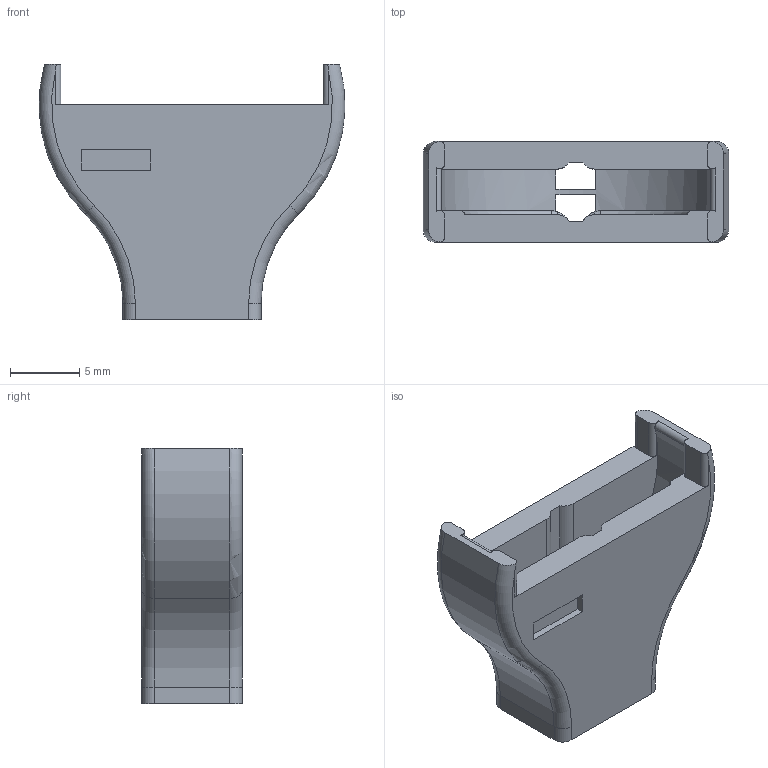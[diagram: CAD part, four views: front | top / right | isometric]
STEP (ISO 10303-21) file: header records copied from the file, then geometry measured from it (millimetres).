
FILE_DESCRIPTION(/* description */ (''),/* implementation_level */ '2;1');
FILE_NAME(/* name */ 'CR2032 Holder.step',/* time_stamp */ '2024-02-13T16:38:38Z',/* author */ (''),/* organization */ (''),/* preprocessor_version */ 'ST-DEVELOPER v20',/* originating_system */ 'Autodesk Translation Framework v12.20.1.177',/* authorisation */ '');
FILE_SCHEMA (('AUTOMOTIVE_DESIGN { 1 0 10303 214 3 1 1 }'));
Length unit declared in the file: millimetre
Products named in the file (1): CR2032 Holder
Bounding box: 22.13 x 7.3 x 18.5 mm (x, y, z)
Volume: 1210.1 mm3; surface area: 1529.5 mm2
Topology: 1 solids, 1 shells, 97 faces, 269 edges, 172 vertices
Faces by surface type: plane 47, cylinder 26, torus 12, bspline 10, sphere 2
Entity records: 3591 total; most frequent: CARTESIAN_POINT 1123, ORIENTED_EDGE 534, DIRECTION 484, EDGE_CURVE 267, VERTEX_POINT 172, AXIS2_PLACEMENT_3D 171, LINE 142, VECTOR 142
